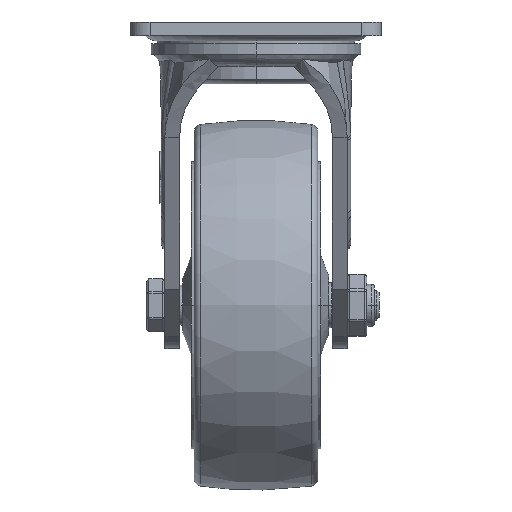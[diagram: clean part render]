
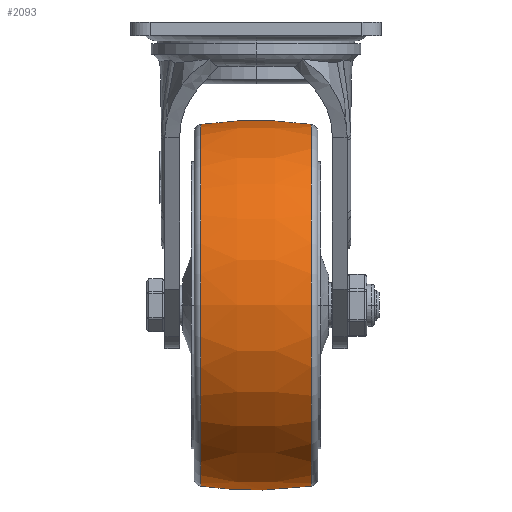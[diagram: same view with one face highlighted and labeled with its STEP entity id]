
A CAD part, left-side view. The second image highlights one B-rep face of the part: STEP entity #2093.
In plain terms, the highlighted free-form (B-spline) face has degree [3, 3] with [4, 7] control points.
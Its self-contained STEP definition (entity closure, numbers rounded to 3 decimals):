
#180=(
BOUNDED_SURFACE()
B_SPLINE_SURFACE(3,3,((#15108,#15109,#15110,#15111,#15112,#15113,#15114),
(#15115,#15116,#15117,#15118,#15119,#15120,#15121),(#15122,#15123,#15124,
#15125,#15126,#15127,#15128),(#15129,#15130,#15131,#15132,#15133,#15134,
#15135)),.UNSPECIFIED.,.F.,.T.,.F.)
B_SPLINE_SURFACE_WITH_KNOTS((4,4),(1,3,3,3,1),(0.,1.),(-0.5,0.,0.5,1.,1.5),
 .UNSPECIFIED.)
GEOMETRIC_REPRESENTATION_ITEM()
RATIONAL_B_SPLINE_SURFACE(((1.,0.333,0.333,1.,0.333,
0.333,1.),(0.993,0.331,0.331,
0.993,0.331,0.331,0.993),
(0.993,0.331,0.331,0.993,
0.331,0.331,0.993),(1.,0.333,
0.333,1.,0.333,0.333,1.)))
REPRESENTATION_ITEM('')
SURFACE()
);
#1688=FACE_BOUND('',#3485,.T.);
#1689=FACE_BOUND('',#3486,.T.);
#2093=ADVANCED_FACE('',(#1688,#1689),#180,.T.);
#3485=EDGE_LOOP('',(#4865));
#3486=EDGE_LOOP('',(#4866));
#4229=CIRCLE('',#11214,73.409);
#4230=CIRCLE('',#11215,73.409);
#4865=ORIENTED_EDGE('',*,*,#9013,.T.);
#4866=ORIENTED_EDGE('',*,*,#9014,.T.);
#7935=VERTEX_POINT('',#15105);
#7936=VERTEX_POINT('',#15107);
#9013=EDGE_CURVE('',#7935,#7935,#4229,.T.);
#9014=EDGE_CURVE('',#7936,#7936,#4230,.T.);
#11214=AXIS2_PLACEMENT_3D('',#15104,#12333,#12334);
#11215=AXIS2_PLACEMENT_3D('',#15106,#12335,#12336);
#12333=DIRECTION('',(0.,1.,0.));
#12334=DIRECTION('',(0.,0.,1.));
#12335=DIRECTION('',(0.,-1.,0.));
#12336=DIRECTION('',(0.,0.,-1.));
#15104=CARTESIAN_POINT('',(44.,-22.505,-115.));
#15105=CARTESIAN_POINT('',(44.,-22.505,-41.591));
#15106=CARTESIAN_POINT('',(44.,22.505,-115.));
#15107=CARTESIAN_POINT('',(44.,22.505,-188.409));
#15108=CARTESIAN_POINT('',(44.,-22.505,-188.409));
#15109=CARTESIAN_POINT('',(190.819,-22.505,-188.409));
#15110=CARTESIAN_POINT('',(190.819,-22.505,-41.591));
#15111=CARTESIAN_POINT('',(44.,-22.505,-41.591));
#15112=CARTESIAN_POINT('',(-102.819,-22.505,-41.591));
#15113=CARTESIAN_POINT('',(-102.819,-22.505,-188.409));
#15114=CARTESIAN_POINT('',(44.,-22.505,-188.409));
#15115=CARTESIAN_POINT('',(44.,-7.552,-190.534));
#15116=CARTESIAN_POINT('',(195.068,-7.552,-190.534));
#15117=CARTESIAN_POINT('',(195.068,-7.552,-39.466));
#15118=CARTESIAN_POINT('',(44.,-7.552,-39.466));
#15119=CARTESIAN_POINT('',(-107.068,-7.552,-39.466));
#15120=CARTESIAN_POINT('',(-107.068,-7.552,-190.534));
#15121=CARTESIAN_POINT('',(44.,-7.552,-190.534));
#15122=CARTESIAN_POINT('',(44.,7.552,-190.534));
#15123=CARTESIAN_POINT('',(195.068,7.552,-190.534));
#15124=CARTESIAN_POINT('',(195.068,7.552,-39.466));
#15125=CARTESIAN_POINT('',(44.,7.552,-39.466));
#15126=CARTESIAN_POINT('',(-107.068,7.552,-39.466));
#15127=CARTESIAN_POINT('',(-107.068,7.552,-190.534));
#15128=CARTESIAN_POINT('',(44.,7.552,-190.534));
#15129=CARTESIAN_POINT('',(44.,22.505,-188.409));
#15130=CARTESIAN_POINT('',(190.819,22.505,-188.409));
#15131=CARTESIAN_POINT('',(190.819,22.505,-41.591));
#15132=CARTESIAN_POINT('',(44.,22.505,-41.591));
#15133=CARTESIAN_POINT('',(-102.819,22.505,-41.591));
#15134=CARTESIAN_POINT('',(-102.819,22.505,-188.409));
#15135=CARTESIAN_POINT('',(44.,22.505,-188.409));
